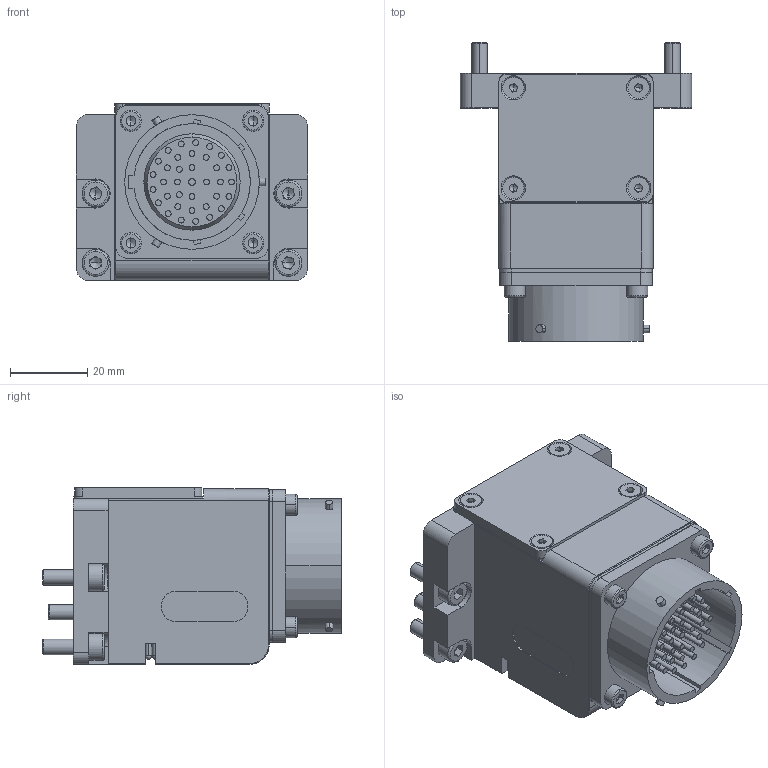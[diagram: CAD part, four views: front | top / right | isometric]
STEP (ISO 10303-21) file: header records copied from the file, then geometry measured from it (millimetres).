
FILE_DESCRIPTION (( 'STEP AP203' ), '1' );
FILE_NAME ('QCSM-32G（可外发）.STEP', '2024-01-02T01:53:59', ( '' ), ( '' ), 'SwSTEP 2.0', 'SolidWorks 2022', '' );
FILE_SCHEMA (( 'CONFIG_CONTROL_DESIGN' ));
Length unit declared in the file: millimetre
Products named in the file (1): QCSM-32G（可外发）
Bounding box: 60 x 77.56 x 45.8 mm (x, y, z)
Volume: 104239.6 mm3; surface area: 25023.4 mm2
Topology: 1 solids, 1 shells, 863 faces, 2034 edges, 1293 vertices
Faces by surface type: plane 372, cylinder 359, cone 80, sphere 32, torus 20
Entity records: 24205 total; most frequent: DIRECTION 4558, CARTESIAN_POINT 4119, ORIENTED_EDGE 3824, EDGE_CURVE 1912, AXIS2_PLACEMENT_3D 1796, VERTEX_POINT 1229, EDGE_LOOP 1041, VECTOR 966
